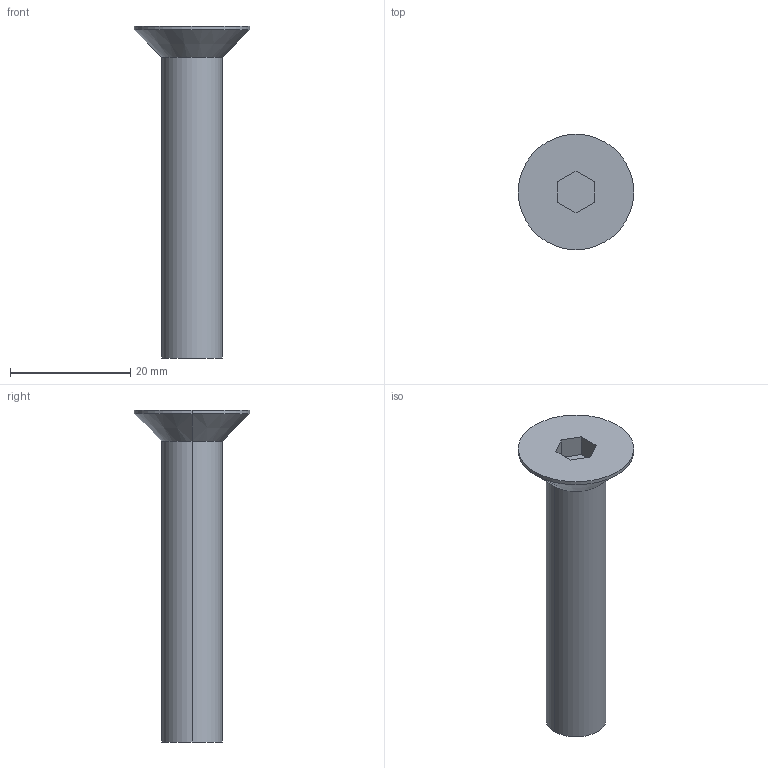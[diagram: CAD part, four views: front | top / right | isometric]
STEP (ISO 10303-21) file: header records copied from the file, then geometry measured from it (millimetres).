
FILE_DESCRIPTION (( 'STEP AP214' ), '1' );
FILE_NAME ('COUNTERSHUNK_HEAD_BOLT_M10(L=050).STEP', '2021-09-18T10:22:33', ( '' ), ( '' ), 'SwSTEP 2.0', 'SolidWorks 2018', '' );
FILE_SCHEMA (( 'AUTOMOTIVE_DESIGN' ));
Length unit declared in the file: millimetre
Products named in the file (1): COUNTERSHUNK_HEAD_BOLT_M10(L=050)
Bounding box: 19.22 x 19.22 x 55.22 mm (x, y, z)
Volume: 4790.2 mm3; surface area: 2350.4 mm2
Topology: 1 solids, 1 shells, 15 faces, 32 edges, 20 vertices
Faces by surface type: plane 9, cylinder 4, cone 2
Entity records: 436 total; most frequent: DIRECTION 72, CARTESIAN_POINT 68, ORIENTED_EDGE 64, EDGE_CURVE 32, LINE 24, AXIS2_PLACEMENT_3D 24, VECTOR 24, VERTEX_POINT 20
